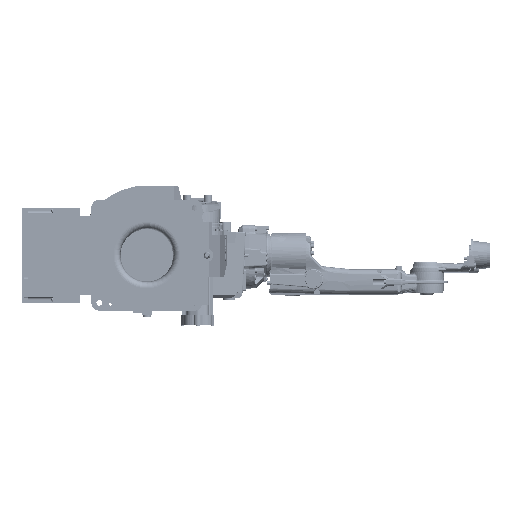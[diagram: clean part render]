
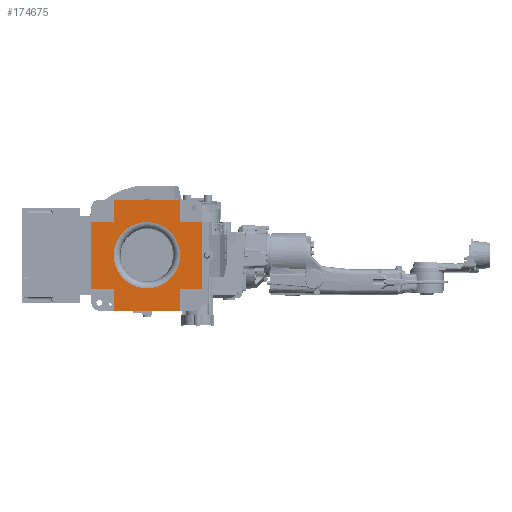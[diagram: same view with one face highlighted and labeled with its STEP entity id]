
A CAD part, front view. The second image highlights one B-rep face of the part: STEP entity #174675.
In plain terms, the highlighted planar face has unit normal (0, -1, 0).
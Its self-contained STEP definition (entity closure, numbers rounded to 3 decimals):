
#6758 = CARTESIAN_POINT ( 'NONE',  ( -174.93, 5., 105. ) ) ;
#6765 = CARTESIAN_POINT ( 'NONE',  ( -105., 5., 105. ) ) ;
#6782 = CARTESIAN_POINT ( 'NONE',  ( -105., 5., -105. ) ) ;
#6789 = CARTESIAN_POINT ( 'NONE',  ( -174.93, 5., -105. ) ) ;
#6819 = CARTESIAN_POINT ( 'NONE',  ( -105., 5., -174.93 ) ) ;
#6836 = CARTESIAN_POINT ( 'NONE',  ( 105., 5., -105. ) ) ;
#6843 = CARTESIAN_POINT ( 'NONE',  ( 105., 5., -174.93 ) ) ;
#6856 = CARTESIAN_POINT ( 'NONE',  ( 174.93, 5., -105. ) ) ;
#6879 = CARTESIAN_POINT ( 'NONE',  ( 105., 5., 105. ) ) ;
#6886 = CARTESIAN_POINT ( 'NONE',  ( 174.93, 5., 105. ) ) ;
#6899 = CARTESIAN_POINT ( 'NONE',  ( 105., 5., 174.93 ) ) ;
#6906 = CARTESIAN_POINT ( 'NONE',  ( 10., 5., 174.93 ) ) ;
#6912 = CARTESIAN_POINT ( 'NONE',  ( 10., 5., 177. ) ) ;
#6919 = CARTESIAN_POINT ( 'NONE',  ( -10., 5., 177. ) ) ;
#6925 = CARTESIAN_POINT ( 'NONE',  ( -10., 5., 174.93 ) ) ;
#6933 = CARTESIAN_POINT ( 'NONE',  ( -105., 5., 174.93 ) ) ;
#8269 = CARTESIAN_POINT ( 'NONE',  ( -175.087, 5., 105. ) ) ;
#8335 = CARTESIAN_POINT ( 'NONE',  ( 0., 5., 0. ) ) ;
#8340 = DIRECTION ( 'NONE',  ( 0., 1., 0. ) ) ;
#8342 = DIRECTION ( 'NONE',  ( -1., 0., 0. ) ) ;
#8400 = CARTESIAN_POINT ( 'NONE',  ( -105., 5., -105. ) ) ;
#8404 = DIRECTION ( 'NONE',  ( -1., 0., 0. ) ) ;
#8411 = DIRECTION ( 'NONE',  ( 1., 0., 0. ) ) ;
#8494 = CARTESIAN_POINT ( 'NONE',  ( -105., 5., -175.087 ) ) ;
#8520 = DIRECTION ( 'NONE',  ( 0., 0., -1. ) ) ;
#8525 = CARTESIAN_POINT ( 'NONE',  ( -105., 5., 105. ) ) ;
#8529 = DIRECTION ( 'NONE',  ( 0., 0., -1. ) ) ;
#8534 = CARTESIAN_POINT ( 'NONE',  ( 105., 5., -105. ) ) ;
#8537 = DIRECTION ( 'NONE',  ( 1., 0., 0. ) ) ;
#8543 = CARTESIAN_POINT ( 'NONE',  ( 105., 5., -175.087 ) ) ;
#8546 = DIRECTION ( 'NONE',  ( 0., 0., 1. ) ) ;
#8567 = CARTESIAN_POINT ( 'NONE',  ( 175.087, 5., 105. ) ) ;
#8581 = DIRECTION ( 'NONE',  ( -1., 0., 0. ) ) ;
#8604 = CARTESIAN_POINT ( 'NONE',  ( 105., 5., 105. ) ) ;
#8607 = DIRECTION ( 'NONE',  ( 0., 0., 1. ) ) ;
#8629 = CARTESIAN_POINT ( 'NONE',  ( 10., 5., 177. ) ) ;
#8644 = DIRECTION ( 'NONE',  ( 1., 0., 0. ) ) ;
#8648 = CARTESIAN_POINT ( 'NONE',  ( 150., 5., -174.93 ) ) ;
#8669 = CARTESIAN_POINT ( 'NONE',  ( 150., 5., 174.93 ) ) ;
#8673 = DIRECTION ( 'NONE',  ( -1., 0., 0. ) ) ;
#8678 = CARTESIAN_POINT ( 'NONE',  ( 10., 5., 170. ) ) ;
#8681 = DIRECTION ( 'NONE',  ( 0., 0., 1. ) ) ;
#8687 = CARTESIAN_POINT ( 'NONE',  ( 150., 5., 174.93 ) ) ;
#8690 = DIRECTION ( 'NONE',  ( -1., 0., 0. ) ) ;
#8695 = CARTESIAN_POINT ( 'NONE',  ( -10., 5., 170. ) ) ;
#8698 = DIRECTION ( 'NONE',  ( 0., 0., 1. ) ) ;
#8702 = CARTESIAN_POINT ( 'NONE',  ( 174.93, 5., -150. ) ) ;
#8708 = DIRECTION ( 'NONE',  ( 1., 0., 0. ) ) ;
#8714 = CARTESIAN_POINT ( 'NONE',  ( -174.93, 5., -150. ) ) ;
#8717 = DIRECTION ( 'NONE',  ( 0., 0., -1. ) ) ;
#8737 = DIRECTION ( 'NONE',  ( 0., 0., 1. ) ) ;
#42113 = VERTEX_POINT ( 'NONE', #283279 ) ;
#42116 = VERTEX_POINT ( 'NONE', #283280 ) ;
#54410 = VERTEX_POINT ( 'NONE', #6758 ) ;
#54413 = VERTEX_POINT ( 'NONE', #6765 ) ;
#54422 = VERTEX_POINT ( 'NONE', #6782 ) ;
#54425 = VERTEX_POINT ( 'NONE', #6789 ) ;
#54437 = VERTEX_POINT ( 'NONE', #6819 ) ;
#54446 = VERTEX_POINT ( 'NONE', #6836 ) ;
#54449 = VERTEX_POINT ( 'NONE', #6843 ) ;
#54455 = VERTEX_POINT ( 'NONE', #6856 ) ;
#54464 = VERTEX_POINT ( 'NONE', #6879 ) ;
#54467 = VERTEX_POINT ( 'NONE', #6886 ) ;
#54472 = VERTEX_POINT ( 'NONE', #6899 ) ;
#54474 = VERTEX_POINT ( 'NONE', #6906 ) ;
#54476 = VERTEX_POINT ( 'NONE', #6912 ) ;
#54479 = VERTEX_POINT ( 'NONE', #6919 ) ;
#54482 = VERTEX_POINT ( 'NONE', #6925 ) ;
#54485 = VERTEX_POINT ( 'NONE', #6933 ) ;
#65252 = EDGE_CURVE ( 'NONE', #42113, #42116, #290056, .T. ) ;
#65278 = EDGE_CURVE ( 'NONE', #54413, #54410, #290065, .T. ) ;
#65283 = EDGE_CURVE ( 'NONE', #54425, #54422, #290041, .T. ) ;
#65329 = EDGE_CURVE ( 'NONE', #54422, #54437, #290101, .T. ) ;
#65333 = EDGE_CURVE ( 'NONE', #54485, #54413, #290105, .T. ) ;
#65336 = EDGE_CURVE ( 'NONE', #54446, #54455, #290109, .T. ) ;
#65342 = EDGE_CURVE ( 'NONE', #54449, #54446, #290114, .T. ) ;
#65357 = EDGE_CURVE ( 'NONE', #54467, #54464, #290096, .T. ) ;
#65367 = EDGE_CURVE ( 'NONE', #54464, #54472, #290147, .T. ) ;
#65383 = EDGE_CURVE ( 'NONE', #54479, #54476, #290137, .T. ) ;
#65396 = EDGE_CURVE ( 'NONE', #54482, #54485, #290178, .T. ) ;
#65402 = EDGE_CURVE ( 'NONE', #54474, #54476, #290181, .T. ) ;
#65406 = EDGE_CURVE ( 'NONE', #54472, #54474, #290185, .T. ) ;
#65410 = EDGE_CURVE ( 'NONE', #54482, #54479, #290189, .T. ) ;
#65414 = EDGE_CURVE ( 'NONE', #54437, #54449, #290163, .T. ) ;
#65417 = EDGE_CURVE ( 'NONE', #54410, #54425, #290199, .T. ) ;
#65425 = EDGE_CURVE ( 'NONE', #54455, #54467, #290168, .T. ) ;
#80510 = AXIS2_PLACEMENT_3D ( 'NONE', #266584, #266620, #266622 ) ;
#81450 = EDGE_LOOP ( 'NONE', ( #149014, #149018 ) ) ;
#96472 = AXIS2_PLACEMENT_3D ( 'NONE', #148656, #148680, #148682 ) ;
#139328 = CIRCLE ( 'NONE', #96472, 104.654 ) ;
#139936 = AXIS2_PLACEMENT_3D ( 'NONE', #8335, #8340, #8342 ) ;
#148656 = CARTESIAN_POINT ( 'NONE',  ( 0., 5., 0. ) ) ;
#148680 = DIRECTION ( 'NONE',  ( 0., 1., 0. ) ) ;
#148682 = DIRECTION ( 'NONE',  ( -1., 0., 0. ) ) ;
#148955 = ORIENTED_EDGE ( 'NONE', *, *, #65406, .T. ) ;
#148958 = ORIENTED_EDGE ( 'NONE', *, *, #65402, .T. ) ;
#148962 = ORIENTED_EDGE ( 'NONE', *, *, #65383, .F. ) ;
#148966 = ORIENTED_EDGE ( 'NONE', *, *, #65410, .F. ) ;
#148969 = ORIENTED_EDGE ( 'NONE', *, *, #65396, .T. ) ;
#148972 = ORIENTED_EDGE ( 'NONE', *, *, #65333, .T. ) ;
#148976 = ORIENTED_EDGE ( 'NONE', *, *, #65278, .T. ) ;
#148980 = ORIENTED_EDGE ( 'NONE', *, *, #65417, .T. ) ;
#148984 = ORIENTED_EDGE ( 'NONE', *, *, #65283, .T. ) ;
#148988 = ORIENTED_EDGE ( 'NONE', *, *, #65329, .T. ) ;
#148991 = ORIENTED_EDGE ( 'NONE', *, *, #65414, .T. ) ;
#148995 = ORIENTED_EDGE ( 'NONE', *, *, #65342, .T. ) ;
#148999 = ORIENTED_EDGE ( 'NONE', *, *, #65336, .T. ) ;
#149004 = ORIENTED_EDGE ( 'NONE', *, *, #65425, .T. ) ;
#149007 = ORIENTED_EDGE ( 'NONE', *, *, #65357, .T. ) ;
#149010 = ORIENTED_EDGE ( 'NONE', *, *, #65367, .T. ) ;
#149014 = ORIENTED_EDGE ( 'NONE', *, *, #249309, .T. ) ;
#149018 = ORIENTED_EDGE ( 'NONE', *, *, #65252, .T. ) ;
#174675 = ADVANCED_FACE ( 'NONE', ( #269387, #269328 ), #266595, .F. ) ;
#189822 = EDGE_LOOP ( 'NONE', ( #148955, #148958, #148962, #148966, #148969, #148972, #148976, #148980, #148984, #148988, #148991, #148995, #148999, #149004, #149007, #149010 ) ) ;
#249309 = EDGE_CURVE ( 'NONE', #42116, #42113, #139328, .T. ) ;
#266584 = CARTESIAN_POINT ( 'NONE',  ( -105., 5., -175.087 ) ) ;
#266595 = PLANE ( 'NONE',  #80510 ) ;
#266620 = DIRECTION ( 'NONE',  ( 0., 1., 0. ) ) ;
#266622 = DIRECTION ( 'NONE',  ( -1., 0., 0. ) ) ;
#269328 = FACE_BOUND ( 'NONE', #81450, .T. ) ;
#269387 = FACE_OUTER_BOUND ( 'NONE', #189822, .T. ) ;
#283279 = CARTESIAN_POINT ( 'NONE',  ( 104.654, 5., 0. ) ) ;
#283280 = CARTESIAN_POINT ( 'NONE',  ( -104.654, 5., 0. ) ) ;
#290029 = VECTOR ( 'NONE', #8404, 1000. ) ;
#290041 = LINE ( 'NONE', #8400, #290069 ) ;
#290056 = CIRCLE ( 'NONE', #139936, 104.654 ) ;
#290065 = LINE ( 'NONE', #8269, #290029 ) ;
#290069 = VECTOR ( 'NONE', #8411, 1000. ) ;
#290096 = LINE ( 'NONE', #8567, #290135 ) ;
#290098 = VECTOR ( 'NONE', #8520, 1000. ) ;
#290101 = LINE ( 'NONE', #8494, #290098 ) ;
#290105 = LINE ( 'NONE', #8525, #290107 ) ;
#290107 = VECTOR ( 'NONE', #8529, 1000. ) ;
#290109 = LINE ( 'NONE', #8534, #290111 ) ;
#290111 = VECTOR ( 'NONE', #8537, 1000. ) ;
#290114 = LINE ( 'NONE', #8543, #290116 ) ;
#290116 = VECTOR ( 'NONE', #8546, 1000. ) ;
#290135 = VECTOR ( 'NONE', #8581, 1000. ) ;
#290137 = LINE ( 'NONE', #8629, #290165 ) ;
#290147 = LINE ( 'NONE', #8604, #290148 ) ;
#290148 = VECTOR ( 'NONE', #8607, 1000. ) ;
#290163 = LINE ( 'NONE', #8648, #290193 ) ;
#290165 = VECTOR ( 'NONE', #8644, 1000. ) ;
#290168 = LINE ( 'NONE', #8702, #290211 ) ;
#290178 = LINE ( 'NONE', #8669, #290179 ) ;
#290179 = VECTOR ( 'NONE', #8673, 1000. ) ;
#290181 = LINE ( 'NONE', #8678, #290183 ) ;
#290183 = VECTOR ( 'NONE', #8681, 1000. ) ;
#290185 = LINE ( 'NONE', #8687, #290187 ) ;
#290187 = VECTOR ( 'NONE', #8690, 1000. ) ;
#290189 = LINE ( 'NONE', #8695, #290191 ) ;
#290191 = VECTOR ( 'NONE', #8698, 1000. ) ;
#290193 = VECTOR ( 'NONE', #8708, 1000. ) ;
#290199 = LINE ( 'NONE', #8714, #290202 ) ;
#290202 = VECTOR ( 'NONE', #8717, 1000. ) ;
#290211 = VECTOR ( 'NONE', #8737, 1000. ) ;
